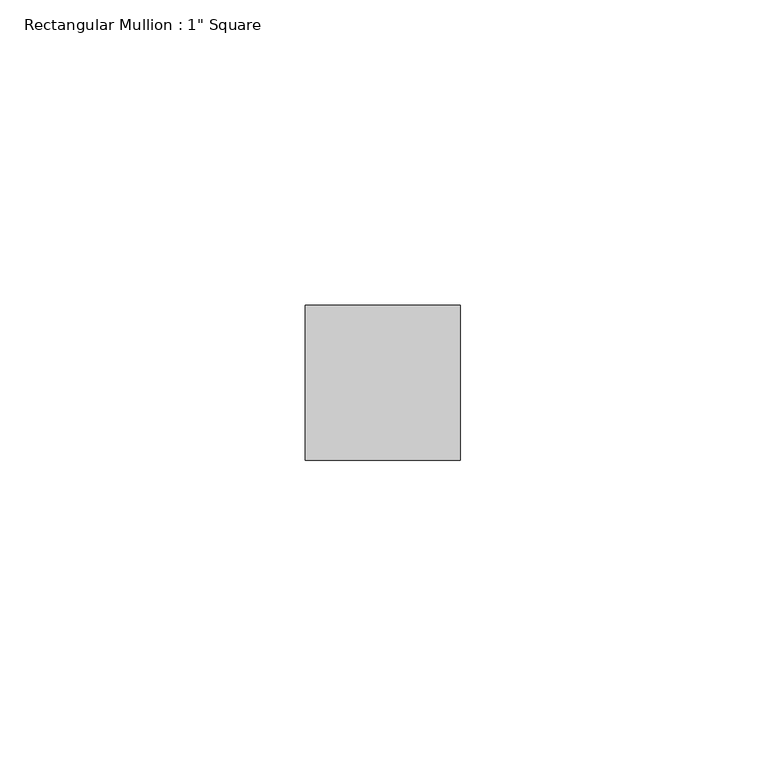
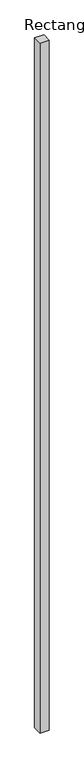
"""IFC4 building model written with IfcOpenShell, lengths in millimetres: member geometry."""

from ifc_helpers import new_model, si_unit, frame, origin, place, context, project, spatial, polyline, outline, extrude, source, transform, mapped, element, save


def member_6c4aaba8(model_context):
    return source(origin(), model_context, "Body", "SweptSolid", [
        extrude(outline(polyline([(12.7, 12.7), (12.7, -12.7), (-12.7, -12.7), (-12.7, 12.7), (12.7, 12.7)])), frame((0.0, 0.0, -2037.5293419), z_axis=(0.0, 0.0, 1.0), x_axis=(1.0, 0.0, 0.0)), (0.0, 0.0, 1.0), 2037.5293419),
    ])


if __name__ == "__main__":
    model = new_model("IFC4")
    model_context = context("Model", 3, world=origin())
    ifc_project = project(units=[si_unit("LENGTHUNIT", "METRE", prefix="MILLI")], contexts=[model_context])
    site = spatial("IfcSite", under=ifc_project)
    building = spatial("IfcBuilding", under=site)
    placement = place(None, origin())
    member_shape = member_6c4aaba8(model_context)
    element("IfcMember", 1, ObjectType="Rectangular Mullion : 1\" Square", at=placement, inside=building, context=model_context, shape_type="MappedRepresentation", body=[
        mapped(member_shape, transform((0.0, 0.0, 0.0), x_axis=(1.0, 0.0, 0.0), y_axis=(0.0, 1.0, 0.0), z_axis=(0.0, 0.0, 1.0))),
    ])
    save(model, "model.ifc")
